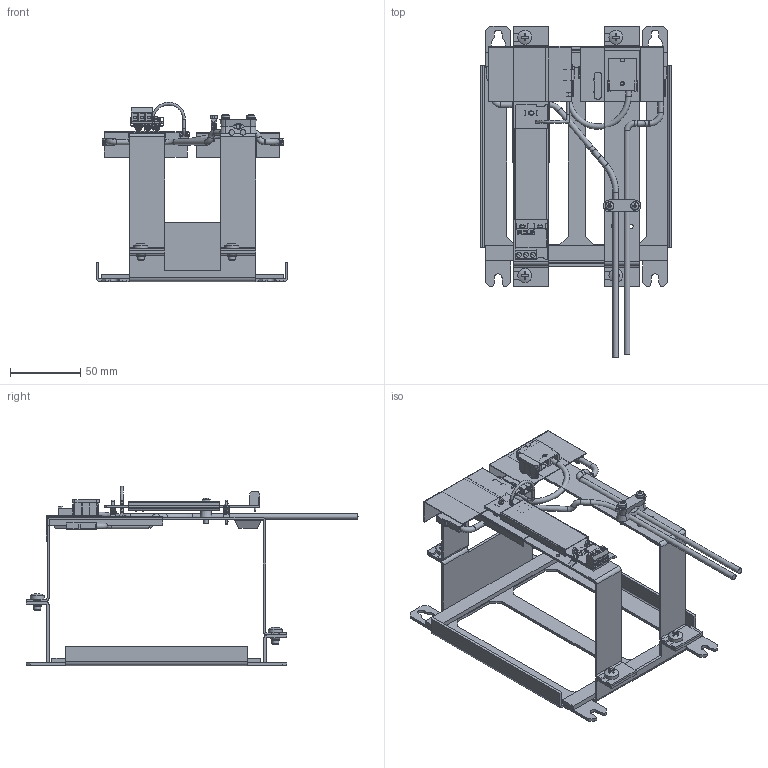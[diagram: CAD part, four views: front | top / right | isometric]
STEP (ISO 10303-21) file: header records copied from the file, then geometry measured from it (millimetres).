
FILE_DESCRIPTION((''),'2;1');
FILE_NAME('C:\Users\rahns\Desktop\Marketing\Proi2\SD1UZO24-071SR1_SC_2014-07-07.stp','2014-07-07T13:24:49',('rahns'),(''),'Autodesk Inventor 2009','Autodesk Inventor 2009','');
FILE_SCHEMA(('AUTOMOTIVE_DESIGN { 1 0 10303 214 1 1 1 1 }'));
Length unit declared in the file: millimetre
Products named in the file (38): 393; BASIS 393.00 (S); TAPE medium; BATTERY HOLDER; SCREW M5x8; CABLE HOLDER; WASHER 3; ED-B30_127-10; ED-3016-7985-10; ISOLATIONSFOIL 393.00 (1); ISOLATIONSFOIL 393.00 (2); ISOLATIONSFOIL 393.00 (3); FUSEHOLDER; SCREW 3x8; FUSE; SPACER; PCB HOLDER; PCB 393; ep-393; RW-OR015-DA; XT-LP3BL-D9; FY-RGEF400-x1; AZ-393-Schrumpfschlauch; EL-393; WI-393; ES-ELH6-20-einbau; AZ-393 Kabel blau kurz-einbau; XS-STEHU6_1-20; Wire_393; XS-HOUSING_1P-22; EW-393; XS-STEHU6_6_T-20
Assembly tree (60 placements, depth 4):
  393
    BASIS 393.00 (S)
    TAPE medium  x2
    BATTERY HOLDER  x2
    SCREW M5x8  x4
    CABLE HOLDER  x2
    WASHER 3  x2
    ED-B30_127-10  x2
    ED-3016-7985-10  x2
    ISOLATIONSFOIL 393.00 (1)
    ISOLATIONSFOIL 393.00 (2)
    ISOLATIONSFOIL 393.00 (3)
    FUSEHOLDER
    SCREW 3x8
    FUSE
    SPACER  x4
    PCB HOLDER  x3
    PCB 393
      ep-393
      RW-OR015-DA  x7
      XT-LP3BL-D9
      FY-RGEF400-x1
      AZ-393-Schrumpfschlauch
      EL-393
      WI-393
        ES-ELH6-20-einbau
        AZ-393 Kabel blau kurz-einbau
      XS-STEHU6_1-20
    Wire_393
      XS-HOUSING_1P-22
      EW-393
      XS-STEHU6_6_T-20
    Wire_393
      XS-HOUSING_1P-22
      EW-393
    Wire_393
      XS-HOUSING_1P-22
      EW-393
    Wire_393
      XS-HOUSING_1P-22
      EW-393
Bounding box: 137 x 236.97 x 128.11 mm (x, y, z)
Volume: 107379.8 mm3; surface area: 145819.4 mm2
Topology: 50 solids, 350 shells, 1752 faces, 5323 edges, 3958 vertices
Faces by surface type: plane 965, cylinder 552, bspline 83, sphere 54, torus 51, cone 47
Full cylindrical faces by diameter (mm): 0.73 x4, 0.813 x2, 1 x24, 1.295 x14, 1.397 x3, 1.5 x1, 1.9 x1, 2 x4, 2.413 x1, 2.6 x1, 2.75 x2, 3 x9, 3.2 x6, 3.5 x3, 3.7 x4, 3.82 x2, 4 x12, 5 x4, 5.4 x2, 6 x7, 10 x4
Entity records: 41107 total; most frequent: CARTESIAN_POINT 10090, DIRECTION 6083, ORIENTED_EDGE 5524, EDGE_CURVE 3036, VERTEX_POINT 2225, AXIS2_PLACEMENT_3D 2068, VECTOR 1947, LINE 1947
